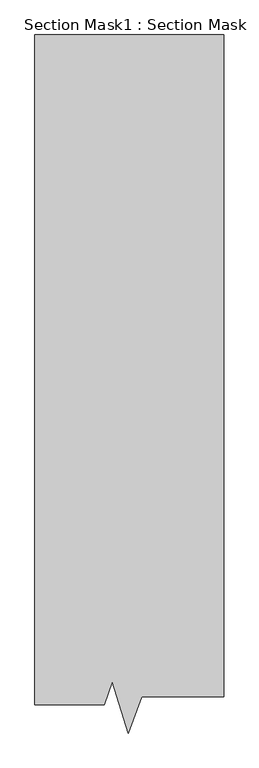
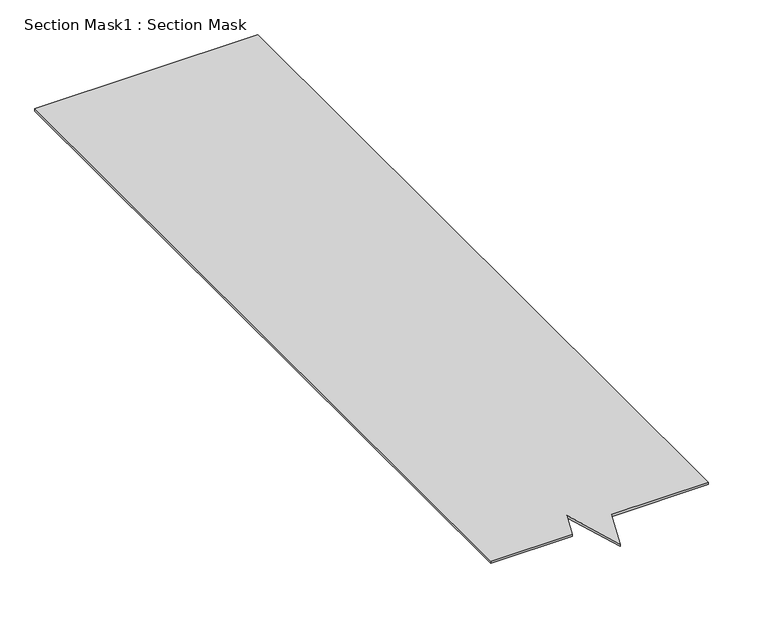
"""IFC4 building model written with IfcOpenShell, lengths in millimetres: proxy geometry, Section Mask1 : Section Mask."""

import ifcopenshell
import ifcopenshell.guid

model = None  # the IFC model being written
_history = None  # IfcOwnerHistory: only IFC2X3 demands one
_inside = {}  # id of a spatial element -> (the spatial element, [elements in it])
_under = {}  # id of a project, library or spatial element -> (it, [spatial elements below it])
_declared = {}  # id of a project -> (the project, [libraries it declares])
_typed = {}  # id of a type object -> (the type object, [elements of that type])
_made_of = {}  # id of a material, layer set ... -> (it, [elements and type objects made of it])


def new_model(schema):
    """Start an empty IFC model of exactly this schema.

    Asked for "IFC4X3", IfcOpenShell would pick the latest addendum, in which some entities
    have other attributes; the version numbers below select the first issue.
    IFC2X3 requires an IfcOwnerHistory on every rooted entity: one is made here for all.
    """
    global model, _history
    if schema == "IFC4X3":
        model = ifcopenshell.file(schema_version=(4, 3, 0, 0))
    else:
        model = ifcopenshell.file(schema=schema)
    _inside.clear()
    _under.clear()
    _declared.clear()
    _typed.clear()
    _made_of.clear()
    _history = None
    if model.schema == "IFC2X3":
        org = make("IfcOrganization", Name="unknown")
        user = make(
            "IfcPersonAndOrganization",
            ThePerson=make("IfcPerson", FamilyName="unknown"),
            TheOrganization=org,
        )
        app = make(
            "IfcApplication",
            ApplicationDeveloper=org,
            Version="unknown",
            ApplicationFullName="unknown",
            ApplicationIdentifier="unknown",
        )
        _history = make(
            "IfcOwnerHistory",
            OwningUser=user,
            OwningApplication=app,
            ChangeAction="ADDED",
            CreationDate=0,
        )
    return model


def make(cls, **values):
    """One entity of the class cls with the attributes given. An attribute that is None is left unset."""
    return model.create_entity(
        cls, **{name: value for name, value in values.items() if value is not None}
    )


def rooted(cls, **values):
    """An entity with a GlobalId (a new one), such as an element, a storey or a relation."""
    return make(cls, GlobalId=ifcopenshell.guid.new(), OwnerHistory=_history, **values)


def si_unit(unit_type, name, prefix=None):
    """IfcSIUnit, for example si_unit("LENGTHUNIT", "METRE", prefix="MILLI")."""
    return make("IfcSIUnit", UnitType=unit_type, Prefix=prefix, Name=name)


def assignment(units):
    """IfcUnitAssignment: the units of a project."""
    return None if units is None else make("IfcUnitAssignment", Units=units)


def point(xyz):
    """IfcCartesianPoint."""
    return None if xyz is None else make("IfcCartesianPoint", Coordinates=xyz)


def direction(xyz):
    """IfcDirection."""
    return None if xyz is None else make("IfcDirection", DirectionRatios=xyz)


def frame(location, z_axis=None, x_axis=None):
    """IfcAxis2Placement3D, a coordinate frame: its origin and axes. An axis left out is left unset."""
    return make(
        "IfcAxis2Placement3D",
        Location=point(location),
        Axis=direction(z_axis),
        RefDirection=direction(x_axis),
    )


def origin():
    """The frame at (0, 0, 0) with its axes left unset."""
    return frame((0.0, 0.0, 0.0))


def place(relative_to, where):
    """IfcLocalPlacement: puts the frame where relative to a parent placement (None: the world)."""
    return make(
        "IfcLocalPlacement", PlacementRelTo=relative_to, RelativePlacement=where
    )


def context(
    kind, dimensions, precision=None, world=None, true_north=None, identifier=None
):
    """IfcGeometricRepresentationContext, for example the 3D "Model" context."""
    return make(
        "IfcGeometricRepresentationContext",
        ContextIdentifier=identifier,
        ContextType=kind,
        CoordinateSpaceDimension=dimensions,
        Precision=precision,
        WorldCoordinateSystem=world,
        TrueNorth=true_north,
    )


def project(units=None, contexts=None):
    """IfcProject with its units and contexts."""
    return rooted(
        "IfcProject",
        Name="project",
        RepresentationContexts=contexts,
        UnitsInContext=assignment(units),
    )


def spatial(cls, under=None, at=None, **own):
    """A site, building, storey or space (cls), placed at a placement, below another one or the project."""
    s = rooted(cls, ObjectPlacement=at, **own)
    if under is not None:
        _under.setdefault(under.id(), (under, []))[1].append(s)
    return s


def polyline(points):
    """IfcPolyline through the points."""
    return make("IfcPolyline", Points=[point(p) for p in points])


def outline(outer, holes=None, kind="AREA"):
    """IfcArbitraryClosedProfileDef: a profile drawn as a closed curve; with holes, ...WithVoids."""
    if holes is None:
        return make("IfcArbitraryClosedProfileDef", ProfileType=kind, OuterCurve=outer)
    return make(
        "IfcArbitraryProfileDefWithVoids",
        ProfileType=kind,
        OuterCurve=outer,
        InnerCurves=holes,
    )


def extrude(swept, where, along, depth):
    """IfcExtrudedAreaSolid: the profile swept, set in the frame where, extruded along a direction by depth."""
    return make(
        "IfcExtrudedAreaSolid",
        SweptArea=swept,
        Position=where,
        ExtrudedDirection=direction(along),
        Depth=depth,
    )


def shape(context_of_items, identifier, shape_type, items):
    """IfcShapeRepresentation: the items that make up one representation, for example the "Body"."""
    return make(
        "IfcShapeRepresentation",
        ContextOfItems=context_of_items,
        RepresentationIdentifier=identifier,
        RepresentationType=shape_type,
        Items=items,
    )


def source(mapping_origin, context_of_items, identifier, shape_type, items):
    """IfcRepresentationMap: a shape defined once, which mapped items show again and again."""
    return make(
        "IfcRepresentationMap",
        MappingOrigin=mapping_origin,
        MappedRepresentation=shape(context_of_items, identifier, shape_type, items),
    )


def transform(
    local_origin,
    x_axis=None,
    y_axis=None,
    z_axis=None,
    scale=None,
    scale2=None,
    scale3=None,
    uniform=True,
):
    """IfcCartesianTransformationOperator3D, or its non-uniform kind. x_axis, y_axis, z_axis: its Axis1, 2, 3."""
    if uniform:
        return make(
            "IfcCartesianTransformationOperator3D",
            Axis1=direction(x_axis),
            Axis2=direction(y_axis),
            LocalOrigin=point(local_origin),
            Scale=scale,
            Axis3=direction(z_axis),
        )
    return make(
        "IfcCartesianTransformationOperator3DnonUniform",
        Axis1=direction(x_axis),
        Axis2=direction(y_axis),
        LocalOrigin=point(local_origin),
        Scale=scale,
        Axis3=direction(z_axis),
        Scale2=scale2,
        Scale3=scale3,
    )


def mapped(mapping_source, mapping_target):
    """IfcMappedItem: shows the shape of a source again, moved by a transform."""
    return make(
        "IfcMappedItem", MappingSource=mapping_source, MappingTarget=mapping_target
    )


def made_of(thing, what):
    """Note that an element or type object is made of a material, layer set ...; save() writes the relation."""
    if what is not None:
        _made_of.setdefault(what.id(), (what, []))[1].append(thing)
    return thing


def element(
    cls,
    number,
    at=None,
    inside=None,
    cuts=None,
    type_object=None,
    material=None,
    context=None,
    identifier="Body",
    shape_type=None,
    held_by="IfcProductDefinitionShape",
    body=None,
    shapes=None,
    **own,
):
    """One element of the class cls, such as IfcWall. Its Tag is "e" and its number.

    at: its placement. inside: the storey or other place that contains it. cuts: it is an
    opening in that element (IfcRelVoidsElement). A single representation is given by context,
    identifier, shape_type and body (its items); several are given by shapes. held_by: the class
    of the entity that holds the representations. save() writes the other relations.
    """
    e = rooted(cls, Tag="e%d" % number, ObjectPlacement=at, **own)
    if body is not None:
        shapes = [shape(context, identifier, shape_type, body)]
    if shapes is not None:
        e.Representation = make(held_by, Representations=shapes)
    if inside is not None:
        _inside.setdefault(inside.id(), (inside, []))[1].append(e)
    if cuts is not None:
        rooted(
            "IfcRelVoidsElement", RelatingBuildingElement=cuts, RelatedOpeningElement=e
        )
    if type_object is not None:
        _typed.setdefault(type_object.id(), (type_object, []))[1].append(e)
    return made_of(e, material)


def aggregate(whole, parts):
    """IfcRelAggregates: a whole, such as a stair, and the parts it consists of."""
    return rooted("IfcRelAggregates", RelatingObject=whole, RelatedObjects=parts)


def save(model, path):
    """Write the relations noted so far, then the file.

    IfcRelAggregates (storeys below a building ...), IfcRelContainedInSpatialStructure (elements
    in a storey), IfcRelDefinesByType, IfcRelAssociatesMaterial and IfcRelDeclares: one each for
    every whole, place, type object, material and project.
    """
    for whole, parts in _under.values():
        aggregate(whole, parts)
    for where, things in _inside.values():
        rooted(
            "IfcRelContainedInSpatialStructure",
            RelatedElements=things,
            RelatingStructure=where,
        )
    for kind, things in _typed.values():
        rooted("IfcRelDefinesByType", RelatedObjects=things, RelatingType=kind)
    for what, things in _made_of.values():
        rooted("IfcRelAssociatesMaterial", RelatedObjects=things, RelatingMaterial=what)
    for by, libraries in _declared.values():
        rooted("IfcRelDeclares", RelatingContext=by, RelatedDefinitions=libraries)
    model.write(path)


def section_mask1_section_mask_51df3ead(model_context):
    return source(origin(), model_context, "Body", "SweptSolid", [
        extrude(outline(polyline([(8429.464325, 631.273934), (8239.9477046, 631.273934), (8239.9477046, 2465.4614947), (8757.6370947, 2465.4614947), (8757.6370947, 652.1224056), (8532.0982256, 652.1224056), (8495.4813689, 552.9595639), (8452.4812645, 693.6065681), (8429.464325, 631.273934)])), frame((0.0, 0.0, 45.0273345), z_axis=(0.0, 0.0, 1.0), x_axis=(1.0, 0.0, 0.0)), (0.0, 0.0, 1.0), 5.6926241),
    ])


if __name__ == "__main__":
    model = new_model("IFC4")
    model_context = context("Model", 3, world=origin())
    ifc_project = project(units=[si_unit("LENGTHUNIT", "METRE", prefix="MILLI")], contexts=[model_context])
    site = spatial("IfcSite", under=ifc_project)
    building = spatial("IfcBuilding", under=site)
    placement = place(None, origin())
    section_mask1_section_mask_shape = section_mask1_section_mask_51df3ead(model_context)
    element("IfcBuildingElementProxy", 1, Name="Section Mask1 : Section Mask", ObjectType="Section Mask1 : Section Mask", at=placement, inside=building, context=model_context, shape_type="MappedRepresentation", body=[
        mapped(section_mask1_section_mask_shape, transform((0.0, 0.0, 0.0), x_axis=(1.0, 0.0, 0.0), y_axis=(0.0, 1.0, 0.0), z_axis=(0.0, 0.0, 1.0))),
    ])
    save(model, "model.ifc")
